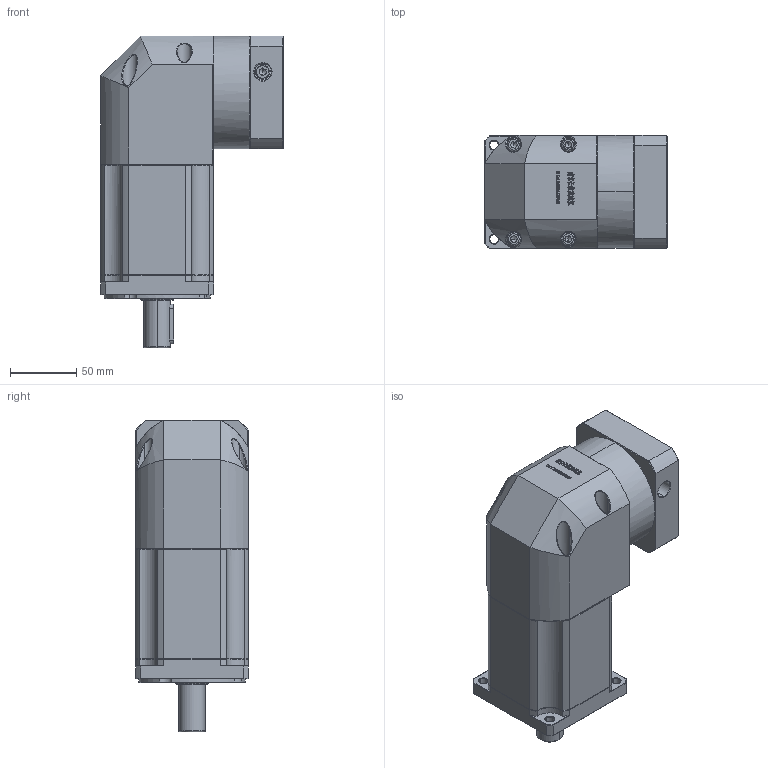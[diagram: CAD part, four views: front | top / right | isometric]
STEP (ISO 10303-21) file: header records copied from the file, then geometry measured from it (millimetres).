
FILE_DESCRIPTION (( 'STEP AP214' ), '1' );
FILE_NAME ('ZBR90-D20-L3-19-70-90-M5.STEP', '2022-05-07T14:56:31', ( '' ), ( 'Microsoft' ), 'SwSTEP 2.0', 'SolidWorks 2016', '' );
FILE_SCHEMA (( 'AUTOMOTIVE_DESIGN' ));
Length unit declared in the file: millimetre
Products named in the file (1): ZBR90-D20-L3-19-70-90-M5
Bounding box: 137.6 x 85 x 235 mm (x, y, z)
Volume: 1491886.3 mm3; surface area: 144163.3 mm2
Topology: 5 solids, 5 shells, 3004 faces, 7953 edges, 5083 vertices
Faces by surface type: plane 1577, bspline 603, cylinder 447, cone 351, torus 26
Entity records: 163240 total; most frequent: CARTESIAN_POINT 60639, ORIENTED_EDGE 15830, DIRECTION 12065, EDGE_CURVE 7915, VECTOR 5281, LINE 5281, VERTEX_POINT 5083, AXIS2_PLACEMENT_3D 3392
